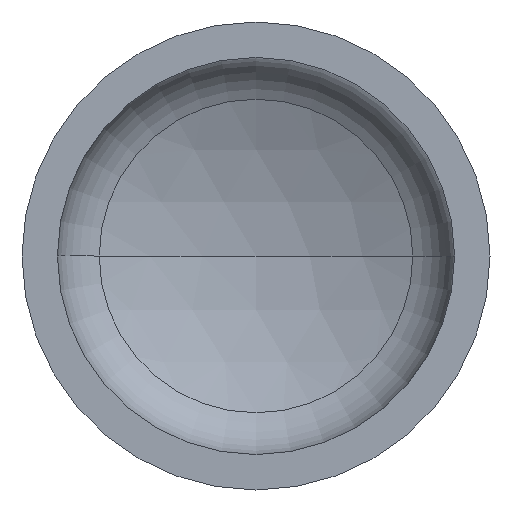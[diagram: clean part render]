
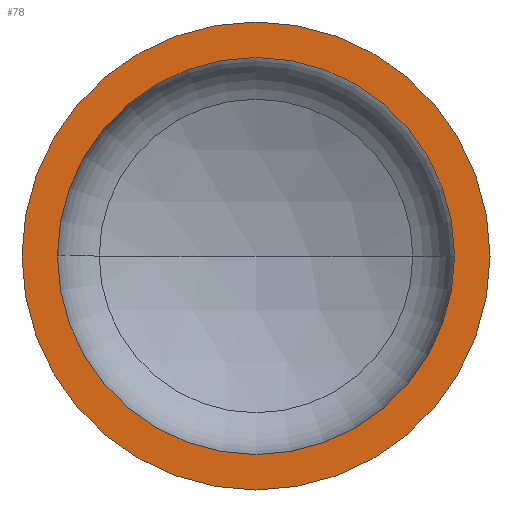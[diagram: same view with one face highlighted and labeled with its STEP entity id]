
A CAD part, front view. The second image highlights one B-rep face of the part: STEP entity #78.
In plain terms, the highlighted planar face has unit normal (0, -1, 0).
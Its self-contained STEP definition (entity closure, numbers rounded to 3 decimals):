
#31 = CIRCLE ( 'NONE', #37, 700. ) ;
#37 = AXIS2_PLACEMENT_3D ( 'NONE', #390, #88, #39 ) ;
#39 = DIRECTION ( 'NONE',  ( 1., 0., 0. ) ) ;
#45 = AXIS2_PLACEMENT_3D ( 'NONE', #234, #232, #229 ) ;
#49 = AXIS2_PLACEMENT_3D ( 'NONE', #270, #263, #260 ) ;
#51 = CIRCLE ( 'NONE', #45, 594. ) ;
#53 = AXIS2_PLACEMENT_3D ( 'NONE', #147, #134, #133 ) ;
#55 = AXIS2_PLACEMENT_3D ( 'NONE', #130, #354, #356 ) ;
#77 = EDGE_CURVE ( 'NONE', #409, #295, #389, .T. ) ;
#78 = ADVANCED_FACE ( 'NONE', ( #231, #161 ), #206, .F. ) ;
#81 = EDGE_CURVE ( 'NONE', #228, #168, #225, .T. ) ;
#82 = EDGE_LOOP ( 'NONE', ( #96, #276 ) ) ;
#84 = CARTESIAN_POINT ( 'NONE',  ( 700., 0., 0. ) ) ;
#88 = DIRECTION ( 'NONE',  ( 0., -1., 0. ) ) ;
#96 = ORIENTED_EDGE ( 'NONE', *, *, #81, .F. ) ;
#130 = CARTESIAN_POINT ( 'NONE',  ( 0., 0., 0. ) ) ;
#133 = DIRECTION ( 'NONE',  ( -1., 0., 0. ) ) ;
#134 = DIRECTION ( 'NONE',  ( 0., 1., 0. ) ) ;
#141 = CARTESIAN_POINT ( 'NONE',  ( 594., 0., 0. ) ) ;
#147 = CARTESIAN_POINT ( 'NONE',  ( -700., 0., 0. ) ) ;
#161 = FACE_OUTER_BOUND ( 'NONE', #262, .T. ) ;
#168 = VERTEX_POINT ( 'NONE', #240 ) ;
#173 = EDGE_CURVE ( 'NONE', #168, #228, #51, .T. ) ;
#206 = PLANE ( 'NONE',  #53 ) ;
#225 = CIRCLE ( 'NONE', #49, 594. ) ;
#228 = VERTEX_POINT ( 'NONE', #141 ) ;
#229 = DIRECTION ( 'NONE',  ( 1., 0., 0. ) ) ;
#231 = FACE_BOUND ( 'NONE', #82, .T. ) ;
#232 = DIRECTION ( 'NONE',  ( 0., -1., 0. ) ) ;
#234 = CARTESIAN_POINT ( 'NONE',  ( 0., 0., 0. ) ) ;
#240 = CARTESIAN_POINT ( 'NONE',  ( -594., 0., 0. ) ) ;
#260 = DIRECTION ( 'NONE',  ( 1., 0., 0. ) ) ;
#262 = EDGE_LOOP ( 'NONE', ( #401, #369 ) ) ;
#263 = DIRECTION ( 'NONE',  ( 0., -1., 0. ) ) ;
#265 = EDGE_CURVE ( 'NONE', #295, #409, #31, .T. ) ;
#270 = CARTESIAN_POINT ( 'NONE',  ( 0., 0., 0. ) ) ;
#276 = ORIENTED_EDGE ( 'NONE', *, *, #173, .F. ) ;
#295 = VERTEX_POINT ( 'NONE', #84 ) ;
#335 = CARTESIAN_POINT ( 'NONE',  ( -700., 0., 0. ) ) ;
#354 = DIRECTION ( 'NONE',  ( 0., -1., 0. ) ) ;
#356 = DIRECTION ( 'NONE',  ( 1., 0., 0. ) ) ;
#369 = ORIENTED_EDGE ( 'NONE', *, *, #77, .T. ) ;
#389 = CIRCLE ( 'NONE', #55, 700. ) ;
#390 = CARTESIAN_POINT ( 'NONE',  ( 0., 0., 0. ) ) ;
#401 = ORIENTED_EDGE ( 'NONE', *, *, #265, .T. ) ;
#409 = VERTEX_POINT ( 'NONE', #335 ) ;
